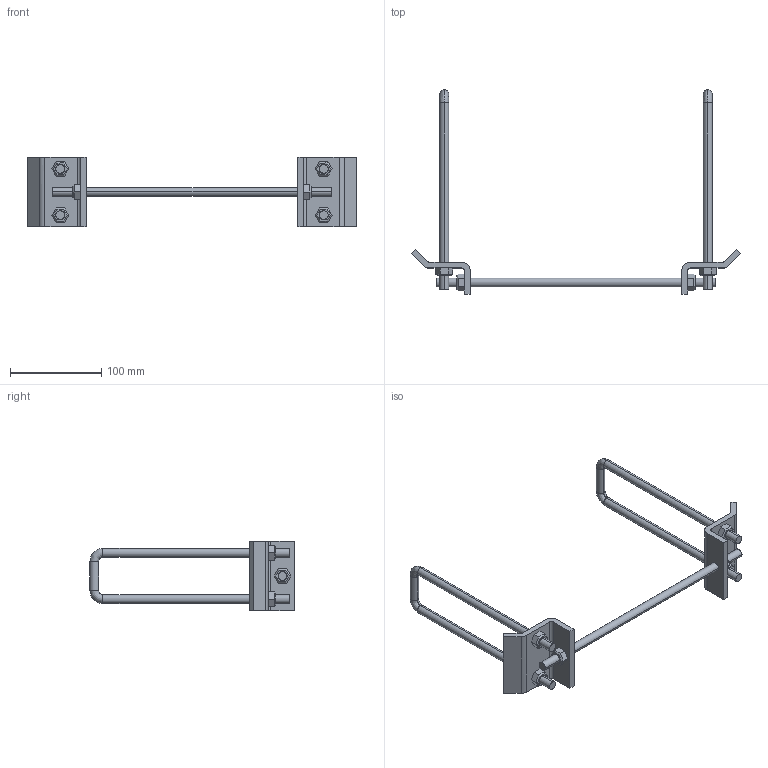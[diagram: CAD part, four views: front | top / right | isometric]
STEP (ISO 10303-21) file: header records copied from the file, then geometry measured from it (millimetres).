
FILE_DESCRIPTION(('TurboCAD Mac Pro'),'Build 980');
FILE_NAME('P2868B-12.stp',' ',(''),(''),'ACIS Interop','IMSI','TurboCAD Mac Pro BY IMSI, INCORPORATED');
FILE_SCHEMA(('automotive_design'));
Length unit declared in the file: inch
Products named in the file (11): 1; 2; 3; 4; 5; 6; 7; 8; 9; 10; 11
Bounding box: 361.4 x 223.86 x 76.2 mm (x, y, z)
Volume: 184271.6 mm3; surface area: 76830.1 mm2
Topology: 11 solids, 11 shells, 176 faces, 410 edges, 256 vertices
Faces by surface type: plane 110, bspline 40, cylinder 26
Entity records: 9060 total; most frequent: CARTESIAN_POINT 1837, ORIENTED_EDGE 820, DIRECTION 692, STYLED_ITEM 533, PRESENTATION_STYLE_ASSIGNMENT 533, COLOUR_RGB 533, EDGE_CURVE 410, CURVE_STYLE 346
